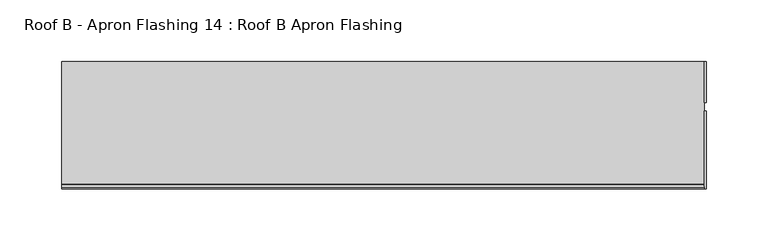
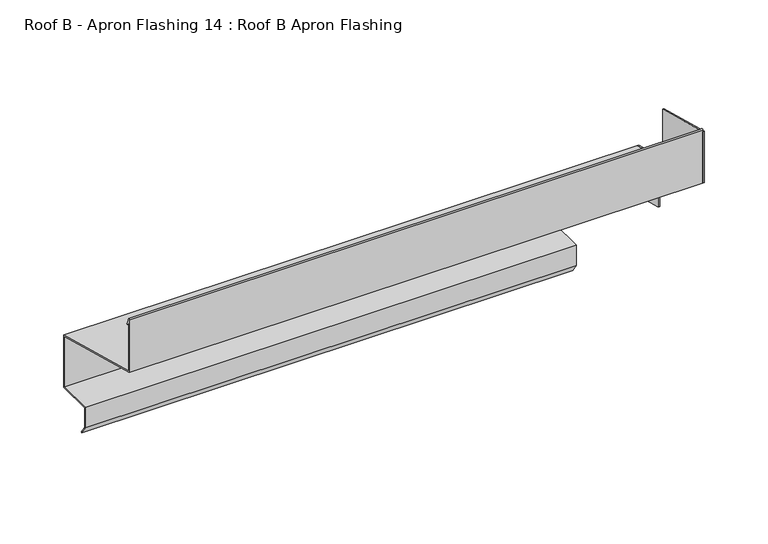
"""IFC4 building model written with IfcOpenShell, lengths in millimetres: proxy geometry, Roof B - Apron Flashing 14 : Roof B Apron Flashing."""

from ifc_helpers import new_model, si_unit, frame, origin, place, context, project, spatial, polyline, circle_curve, outline, extrude, source, transform, mapped, element, save
from ifc_brep_helpers import plane_surface, cylinder_surface, advanced_brep


def roof_b_apron_flashing_14_roof_b_apron_flashing_8da3c9e0(model_context):
    return source(origin(), model_context, "Body", "SolidModel", [
        extrude(outline(polyline([(660.2773132, -242.0096237), (660.2773132, -292.0096237), (659.2776076, -292.0096237), (659.2776076, -289.5944306), (627.4023812, -281.0534894), (627.4023812, -233.2008122), (660.2773132, -242.0096237)])), frame((8486.0219031, 0.0, 0.0), z_axis=(1.0, 0.0, 0.0), x_axis=(0.0, 1.0, 0.0)), (0.0, 0.0, 1.0), 1.3240587),
        extrude(outline(polyline([(620.4882944, -232.3834644), (557.4043312, -215.4801674), (557.4043312, -166.2122183), (620.4882944, -183.1155152), (620.4882944, -232.3834644)])), frame((8486.0219031, 0.0, 0.0), z_axis=(1.0, 0.0, 0.0), x_axis=(0.0, 1.0, 0.0)), (0.0, 0.0, 1.0), 1.3240587),
        advanced_brep(
        [(8486.0219031, 660.2773132, -242.0096237), (8486.0219031, 558.4043312, -214.7128405), (8486.0219031, 558.4043312, -166.5489273), (8486.0219031, 560.2002452, -170.9939705), (8486.0219031, 561.1274291, -170.6193639), (8486.0219031, 558.7129742, -164.6433784), (8486.0219031, 557.4043312, -164.8977528), (8486.0219031, 557.4043312, -215.4801674), (8486.0219031, 659.2773132, -242.7769507), (8486.0219031, 659.2776076, -292.0096237), (8486.0219031, 660.2773132, -292.0096237), (7966.9913177, 660.2773132, -242.0096237), (7966.9913177, 660.2773132, -292.0096237), (7966.9913177, 627.6739483, -292.0096237), (7966.9913177, 627.6739483, -310.3959053), (7966.9913177, 632.884848, -317.8378413), (7966.9913177, 632.065696, -318.4114178), (7966.9913177, 626.6739483, -310.7112041), (7966.9913177, 626.6739483, -291.0096237), (7966.9913177, 659.2773132, -291.0096237), (7966.9913177, 659.2773132, -242.7769507), (7966.9913177, 557.4043312, -215.4801674), (7966.9913177, 557.4043312, -164.8977528), (7966.9913177, 558.7129742, -164.6433784), (7966.9913177, 561.1274291, -170.6193639), (7966.9913177, 560.2002452, -170.9939705), (7966.9913177, 558.4043312, -166.5489273), (7966.9913177, 558.4043312, -214.7128405), (8411.4791786, 659.2773132, -291.0096237), (8411.4791786, 659.2773132, -292.0096237), (8411.4791786, 626.6739483, -291.0096237), (8411.4791786, 626.6739483, -310.7112041), (8411.4791786, 627.6739483, -292.0096237), (8411.4791786, 627.6739483, -310.3959053), (8411.4791786, 632.065696, -318.4114178), (8411.4791786, 632.884848, -317.8378413)],
        [
            (0, 1),
            (1, 2),
            (2, 3),
            (3, 4, circle_curve(frame((8486.0219031, 560.6638371, -170.8066672), z_axis=(1.0, 0.0, 0.0), x_axis=(0.0, 0.24192189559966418, 0.9702957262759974)), 0.5)),
            (4, 5),
            (5, 6, circle_curve(frame((8486.0219031, 558.0833754, -164.8977528), z_axis=(1.0, 0.0, 0.0), x_axis=(0.0, 0.0, 1.0)), 0.6790442)),
            (6, 7),
            (7, 8),
            (8, 9),
            (9, 10),
            (10, 0),
            (11, 12),
            (12, 13),
            (13, 14),
            (14, 15),
            (15, 16),
            (16, 17),
            (17, 18),
            (18, 19),
            (19, 20),
            (20, 21),
            (21, 22),
            (22, 23, circle_curve(frame((7966.9913177, 558.0833754, -164.8977528), z_axis=(-1.0, 0.0, 0.0), x_axis=(0.0, 0.0, 1.0)), 0.6790442)),
            (23, 24),
            (24, 25, circle_curve(frame((7966.9913177, 560.6638371, -170.8066672), z_axis=(-1.0, 0.0, 0.0), x_axis=(0.0, 0.24192189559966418, 0.9702957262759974)), 0.5)),
            (25, 26),
            (26, 27),
            (27, 11),
            (0, 11),
            (27, 1),
            (26, 2),
            (25, 3),
            (24, 4),
            (23, 5),
            (22, 6),
            (21, 7),
            (20, 8),
            (19, 28),
            (28, 29),
            (29, 9),
            (18, 30),
            (30, 28),
            (17, 31),
            (31, 30),
            (13, 32),
            (32, 33),
            (33, 14),
            (12, 10),
            (29, 32),
            (16, 34),
            (34, 31),
            (15, 35),
            (35, 34),
            (33, 35),
        ],
        [
            plane_surface(frame((8486.0219031, 461.8722381, -298.0327356), z_axis=(1.0, 0.0, 0.0), x_axis=(0.0, 1.0, 0.0))),
            plane_surface(frame((7966.9913177, 461.8722381, -298.0327356), z_axis=(-1.0, 0.0, 0.0), x_axis=(0.0, 1.0, 0.0))),
            plane_surface(frame((8486.0219031, 660.2773132, -242.0096237), z_axis=(0.0, 0.25881904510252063, 0.9659258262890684), x_axis=(-1.0, 0.0, 0.0))),
            plane_surface(frame((8486.0219031, 558.4043312, -214.7128405), z_axis=(0.0, 1.0, 0.0), x_axis=(-1.0, 0.0, 0.0))),
            plane_surface(frame((8486.0219031, 558.4043312, -166.5489273), z_axis=(0.0, -0.9271838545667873, -0.3746065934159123), x_axis=(-1.0, 0.0, 0.0))),
            cylinder_surface(frame((8486.0219031, 560.6638371, -170.8066672), z_axis=(1.0, 0.0, 0.0), x_axis=(0.0, 0.24192189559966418, 0.9702957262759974)), 0.5),
            plane_surface(frame((8486.0219031, 561.1274291, -170.6193639), z_axis=(0.0, 0.9271838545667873, 0.3746065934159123), x_axis=(-1.0, 0.0, 0.0))),
            cylinder_surface(frame((8486.0219031, 558.0833754, -164.8977528), z_axis=(1.0, 0.0, 0.0), x_axis=(0.0, 0.0, 1.0)), 0.6790442),
            plane_surface(frame((8486.0219031, 557.4043312, -164.8977528), z_axis=(0.0, -1.0, 0.0), x_axis=(-1.0, 0.0, 0.0))),
            plane_surface(frame((8486.0219031, 557.4043312, -215.4801674), z_axis=(0.0, -0.2588190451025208, -0.9659258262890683), x_axis=(-1.0, 0.0, 0.0))),
            plane_surface(frame((8486.0219031, 659.2773132, -242.7769507), z_axis=(0.0, -1.0, 0.0), x_axis=(-1.0, 0.0, 0.0))),
            plane_surface(frame((8486.0219031, 659.2773132, -291.0096237), z_axis=(0.0, 0.0, 1.0), x_axis=(-1.0, 0.0, 0.0))),
            plane_surface(frame((8486.0219031, 626.6739483, -291.0096237), z_axis=(0.0, -1.0, 0.0), x_axis=(-1.0, 0.0, 0.0))),
            plane_surface(frame((8486.0219031, 627.6739483, -310.3959053), z_axis=(0.0, 1.0, 0.0), x_axis=(-1.0, 0.0, 0.0))),
            plane_surface(frame((8486.0219031, 627.6739483, -292.0096237), z_axis=(0.0, 0.0, -1.0), x_axis=(-1.0, 0.0, 0.0))),
            plane_surface(frame((8486.0219031, 660.2773132, -292.0096237), z_axis=(0.0, 1.0, 0.0), x_axis=(-1.0, 0.0, 0.0))),
            plane_surface(frame((8486.0219031, 626.6739483, -310.7112041), z_axis=(0.0, -0.8191520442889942, -0.5735764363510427), x_axis=(-1.0, 0.0, 0.0))),
            plane_surface(frame((8486.0219031, 632.065696, -318.4114178), z_axis=(0.0, 0.5735764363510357, -0.8191520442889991), x_axis=(-1.0, 0.0, 0.0))),
            plane_surface(frame((8486.0219031, 632.884848, -317.8378413), z_axis=(0.0, 0.8191520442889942, 0.5735764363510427), x_axis=(-1.0, 0.0, 0.0))),
            plane_surface(frame((8411.4791786, 988.4739162, -605.2282213), z_axis=(1.0, 0.0, 0.0), x_axis=(0.0, -0.9659258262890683, 0.2588190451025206))),
        ],
        [
            (0, [[1, 2, 3, 4, 5, 6, 7, 8, 9, 10, 11]]),
            (1, [[12, 13, 14, 15, 16, 17, 18, 19, 20, 21, 22, 23, 24, 25, 26, 27, 28]]),
            (2, [[-1, 29, -28, 30]]),
            (3, [[-2, -30, -27, 31]]),
            (4, [[-3, -31, -26, 32]]),
            (5, [[-4, -32, -25, 33]]),
            (6, [[-5, -33, -24, 34]]),
            (7, [[-6, -34, -23, 35]]),
            (8, [[-7, -35, -22, 36]]),
            (9, [[-8, -36, -21, 37]]),
            (10, [[-20, 38, 39, 40, -9, -37]]),
            (11, [[-19, 41, 42, -38]]),
            (12, [[-18, 43, 44, -41]]),
            (13, [[-14, 45, 46, 47]]),
            (14, [[-13, 48, -10, -40, 49, -45]]),
            (15, [[-11, -48, -12, -29]]),
            (16, [[-17, 50, 51, -43]]),
            (17, [[-16, 52, 53, -50]]),
            (18, [[-15, -47, 54, -52]]),
            (19, [[-39, -42, -44, -51, -53, -54, -46, -49]]),
        ],
    ),
    ])


if __name__ == "__main__":
    model = new_model("IFC4")
    model_context = context("Model", 3, world=origin())
    ifc_project = project(units=[si_unit("LENGTHUNIT", "METRE", prefix="MILLI")], contexts=[model_context])
    site = spatial("IfcSite", under=ifc_project)
    building = spatial("IfcBuilding", under=site)
    placement = place(None, origin())
    roof_b_apron_flashing_14_roof_b_apron_flashing_shape = roof_b_apron_flashing_14_roof_b_apron_flashing_8da3c9e0(model_context)
    element("IfcBuildingElementProxy", 1, Name="Roof B - Apron Flashing 14 : Roof B Apron Flashing", ObjectType="Roof B - Apron Flashing 14 : Roof B Apron Flashing", at=placement, inside=building, context=model_context, shape_type="MappedRepresentation", body=[
        mapped(roof_b_apron_flashing_14_roof_b_apron_flashing_shape, transform((0.0, 0.0, 0.0), x_axis=(1.0, 0.0, 0.0), y_axis=(0.0, 1.0, 0.0), z_axis=(0.0, 0.0, 1.0))),
    ])
    save(model, "model.ifc")
